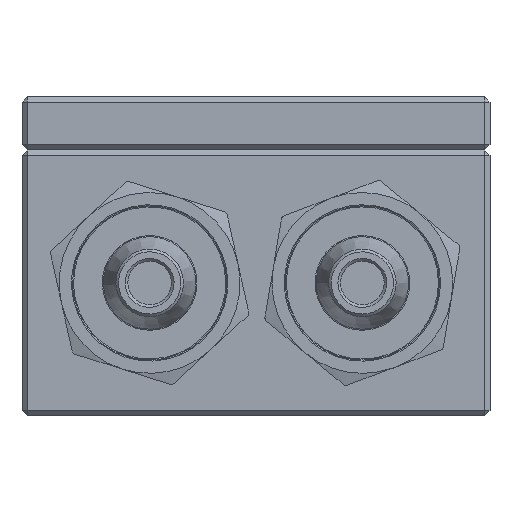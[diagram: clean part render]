
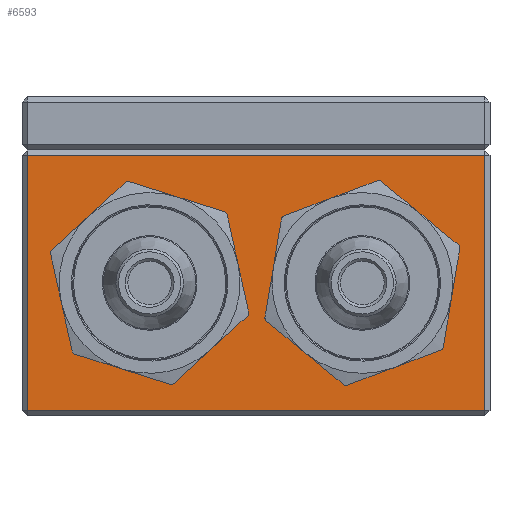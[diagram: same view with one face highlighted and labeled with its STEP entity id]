
A CAD part, front view. The second image highlights one B-rep face of the part: STEP entity #6593.
In plain terms, the highlighted planar face has unit normal (0, -1, 0).
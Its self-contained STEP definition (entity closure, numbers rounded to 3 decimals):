
#297=LINE('',#11836,#625);
#308=LINE('',#11858,#636);
#325=LINE('',#11925,#653);
#329=LINE('',#11937,#657);
#625=VECTOR('',#8031,10.);
#636=VECTOR('',#8052,10.);
#653=VECTOR('',#8105,10.);
#657=VECTOR('',#8113,10.);
#1207=FACE_BOUND('',#2140,.T.);
#1208=FACE_BOUND('',#2141,.T.);
#1630=FACE_OUTER_BOUND('',#2139,.T.);
#2139=EDGE_LOOP('',(#5456,#5457,#5458,#5459));
#2140=EDGE_LOOP('',(#5460,#5461,#5462,#5463,#5464,#5465));
#2141=EDGE_LOOP('',(#5466,#5467,#5468,#5469,#5470,#5471));
#2237=CIRCLE('',#6698,8.5);
#2239=CIRCLE('',#6701,8.5);
#2241=CIRCLE('',#6704,8.5);
#2243=CIRCLE('',#6707,8.5);
#2246=CIRCLE('',#6711,8.5);
#2247=CIRCLE('',#6713,8.5);
#2495=CIRCLE('',#7268,8.5);
#2496=CIRCLE('',#7269,8.5);
#2497=CIRCLE('',#7270,8.5);
#2498=CIRCLE('',#7271,8.5);
#2499=CIRCLE('',#7272,8.5);
#2500=CIRCLE('',#7273,8.5);
#2569=VERTEX_POINT('',#9194);
#2574=VERTEX_POINT('',#9214);
#2579=VERTEX_POINT('',#9234);
#2584=VERTEX_POINT('',#9254);
#2589=VERTEX_POINT('',#9274);
#2594=VERTEX_POINT('',#9294);
#2766=VERTEX_POINT('',#11785);
#2774=VERTEX_POINT('',#11813);
#2780=VERTEX_POINT('',#11831);
#2784=VERTEX_POINT('',#11851);
#3014=VERTEX_POINT('',#13962);
#3015=VERTEX_POINT('',#13963);
#3016=VERTEX_POINT('',#13965);
#3017=VERTEX_POINT('',#13967);
#3018=VERTEX_POINT('',#13969);
#3019=VERTEX_POINT('',#13971);
#3133=EDGE_CURVE('',#2594,#2589,#2237,.T.);
#3135=EDGE_CURVE('',#2589,#2584,#2239,.T.);
#3137=EDGE_CURVE('',#2584,#2579,#2241,.T.);
#3139=EDGE_CURVE('',#2579,#2574,#2243,.T.);
#3142=EDGE_CURVE('',#2569,#2594,#2246,.T.);
#3143=EDGE_CURVE('',#2574,#2569,#2247,.T.);
#3408=EDGE_CURVE('',#2766,#2780,#297,.T.);
#3419=EDGE_CURVE('',#2784,#2774,#308,.T.);
#3448=EDGE_CURVE('',#2780,#2784,#325,.T.);
#3453=EDGE_CURVE('',#2774,#2766,#329,.T.);
#3843=EDGE_CURVE('',#3014,#3015,#2495,.T.);
#3844=EDGE_CURVE('',#3015,#3016,#2496,.T.);
#3845=EDGE_CURVE('',#3016,#3017,#2497,.T.);
#3846=EDGE_CURVE('',#3017,#3018,#2498,.T.);
#3847=EDGE_CURVE('',#3018,#3019,#2499,.T.);
#3848=EDGE_CURVE('',#3019,#3014,#2500,.T.);
#5456=ORIENTED_EDGE('',*,*,#3419,.F.);
#5457=ORIENTED_EDGE('',*,*,#3448,.F.);
#5458=ORIENTED_EDGE('',*,*,#3408,.F.);
#5459=ORIENTED_EDGE('',*,*,#3453,.F.);
#5460=ORIENTED_EDGE('',*,*,#3133,.T.);
#5461=ORIENTED_EDGE('',*,*,#3135,.T.);
#5462=ORIENTED_EDGE('',*,*,#3137,.T.);
#5463=ORIENTED_EDGE('',*,*,#3139,.T.);
#5464=ORIENTED_EDGE('',*,*,#3143,.T.);
#5465=ORIENTED_EDGE('',*,*,#3142,.T.);
#5466=ORIENTED_EDGE('',*,*,#3843,.T.);
#5467=ORIENTED_EDGE('',*,*,#3844,.T.);
#5468=ORIENTED_EDGE('',*,*,#3845,.T.);
#5469=ORIENTED_EDGE('',*,*,#3846,.T.);
#5470=ORIENTED_EDGE('',*,*,#3847,.T.);
#5471=ORIENTED_EDGE('',*,*,#3848,.T.);
#5770=PLANE('',#7267);
#6593=ADVANCED_FACE('',(#1630,#1207,#1208),#5770,.T.);
#6698=AXIS2_PLACEMENT_3D('',#9304,#7473,#7474);
#6701=AXIS2_PLACEMENT_3D('',#9307,#7479,#7480);
#6704=AXIS2_PLACEMENT_3D('',#9310,#7485,#7486);
#6707=AXIS2_PLACEMENT_3D('',#9313,#7491,#7492);
#6711=AXIS2_PLACEMENT_3D('',#9317,#7499,#7500);
#6713=AXIS2_PLACEMENT_3D('',#9319,#7503,#7504);
#7267=AXIS2_PLACEMENT_3D('',#13961,#8915,#8916);
#7268=AXIS2_PLACEMENT_3D('',#13964,#8917,#8918);
#7269=AXIS2_PLACEMENT_3D('',#13966,#8919,#8920);
#7270=AXIS2_PLACEMENT_3D('',#13968,#8921,#8922);
#7271=AXIS2_PLACEMENT_3D('',#13970,#8923,#8924);
#7272=AXIS2_PLACEMENT_3D('',#13972,#8925,#8926);
#7273=AXIS2_PLACEMENT_3D('',#13973,#8927,#8928);
#7473=DIRECTION('center_axis',(0.,1.,0.));
#7474=DIRECTION('ref_axis',(0.953,0.,-0.302));
#7479=DIRECTION('center_axis',(0.,1.,0.));
#7480=DIRECTION('ref_axis',(0.953,0.,-0.302));
#7485=DIRECTION('center_axis',(0.,1.,0.));
#7486=DIRECTION('ref_axis',(0.953,0.,-0.302));
#7491=DIRECTION('center_axis',(0.,1.,0.));
#7492=DIRECTION('ref_axis',(0.953,0.,-0.302));
#7499=DIRECTION('center_axis',(0.,1.,0.));
#7500=DIRECTION('ref_axis',(0.953,0.,-0.302));
#7503=DIRECTION('center_axis',(0.,1.,0.));
#7504=DIRECTION('ref_axis',(0.953,0.,-0.302));
#8031=DIRECTION('',(0.,0.,1.));
#8052=DIRECTION('',(0.,0.,-1.));
#8105=DIRECTION('',(1.,0.,0.));
#8113=DIRECTION('',(-1.,0.,0.));
#8915=DIRECTION('center_axis',(0.,-1.,0.));
#8916=DIRECTION('ref_axis',(1.,0.,0.));
#8917=DIRECTION('center_axis',(0.,1.,0.));
#8918=DIRECTION('ref_axis',(0.937,0.,0.35));
#8919=DIRECTION('center_axis',(0.,1.,0.));
#8920=DIRECTION('ref_axis',(0.937,0.,0.35));
#8921=DIRECTION('center_axis',(0.,1.,0.));
#8922=DIRECTION('ref_axis',(0.937,0.,0.35));
#8923=DIRECTION('center_axis',(0.,1.,0.));
#8924=DIRECTION('ref_axis',(0.937,0.,0.35));
#8925=DIRECTION('center_axis',(0.,1.,0.));
#8926=DIRECTION('ref_axis',(0.937,0.,0.35));
#8927=DIRECTION('center_axis',(0.,1.,0.));
#8928=DIRECTION('ref_axis',(0.937,0.,0.35));
#9194=CARTESIAN_POINT('',(-7.435,-40.,20.604));
#9214=CARTESIAN_POINT('',(-15.735,-40.,18.773));
#9234=CARTESIAN_POINT('',(-18.301,-40.,10.67));
#9254=CARTESIAN_POINT('',(-12.565,-40.,4.396));
#9274=CARTESIAN_POINT('',(-4.265,-40.,6.227));
#9294=CARTESIAN_POINT('',(-1.699,-40.,14.33));
#9304=CARTESIAN_POINT('Origin',(-10.,-40.,12.5));
#9307=CARTESIAN_POINT('Origin',(-10.,-40.,12.5));
#9310=CARTESIAN_POINT('Origin',(-10.,-40.,12.5));
#9313=CARTESIAN_POINT('Origin',(-10.,-40.,12.5));
#9317=CARTESIAN_POINT('Origin',(-10.,-40.,12.5));
#9319=CARTESIAN_POINT('Origin',(-10.,-40.,12.5));
#11785=CARTESIAN_POINT('',(-21.5,-40.,0.5));
#11813=CARTESIAN_POINT('',(21.5,-40.,0.5));
#11831=CARTESIAN_POINT('',(-21.5,-40.,24.5));
#11836=CARTESIAN_POINT('',(-21.5,-40.,0.));
#11851=CARTESIAN_POINT('',(21.5,-40.,24.5));
#11858=CARTESIAN_POINT('',(21.5,-40.,0.));
#11925=CARTESIAN_POINT('',(-11.,-40.,24.5));
#11937=CARTESIAN_POINT('',(-11.,-40.,0.5));
#13961=CARTESIAN_POINT('Origin',(-22.,-40.,0.));
#13962=CARTESIAN_POINT('',(15.405,-40.,19.06));
#13963=CARTESIAN_POINT('',(18.384,-40.,11.099));
#13964=CARTESIAN_POINT('Origin',(10.,-40.,12.5));
#13965=CARTESIAN_POINT('',(12.979,-40.,4.539));
#13966=CARTESIAN_POINT('Origin',(10.,-40.,12.5));
#13967=CARTESIAN_POINT('',(4.595,-40.,5.94));
#13968=CARTESIAN_POINT('Origin',(10.,-40.,12.5));
#13969=CARTESIAN_POINT('',(1.616,-40.,13.901));
#13970=CARTESIAN_POINT('Origin',(10.,-40.,12.5));
#13971=CARTESIAN_POINT('',(7.021,-40.,20.461));
#13972=CARTESIAN_POINT('Origin',(10.,-40.,12.5));
#13973=CARTESIAN_POINT('Origin',(10.,-40.,12.5));
